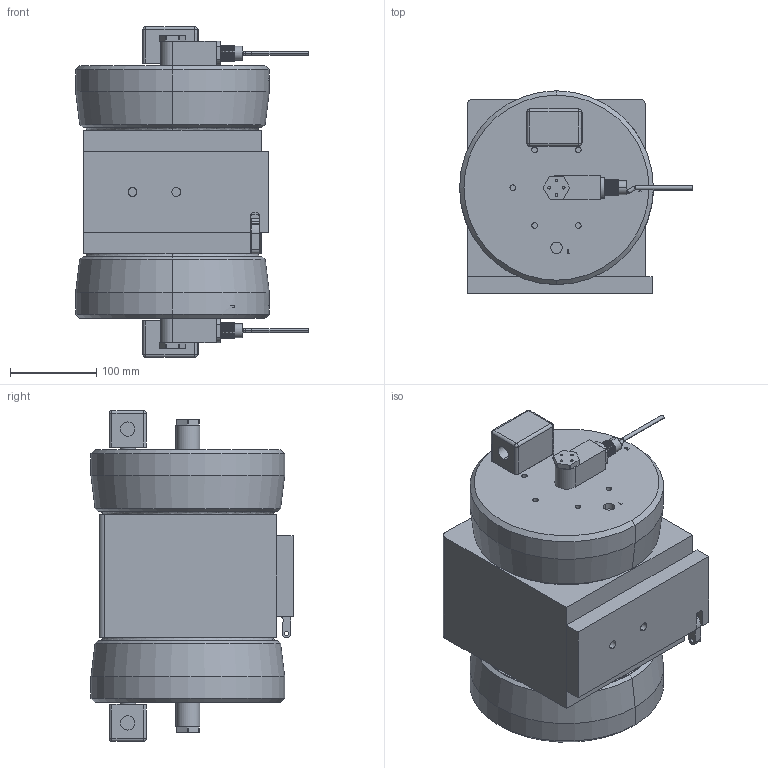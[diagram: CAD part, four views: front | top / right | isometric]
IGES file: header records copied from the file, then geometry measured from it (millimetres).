
Start section: SolidWorks IGES file using analytic representation for surfaces
Global section: file name: \\server\Users\Karen.Bodily\My Documents\PXH140_solid model.IGS; native system: SolidWorks 2012; preprocessor: SolidWorks 2012; author: karen.bodily; date: 130724.134839; units: inch
Bounding box: 270.59 x 234.84 x 384.38 mm (x, y, z)
Volume: 12471061.6 mm3; surface area: 437945 mm2
Topology: 1 solids, 1 shells, 1360 faces, 3344 edges, 2144 vertices
Faces by surface type: plane 824, revolution 441, bspline 95
